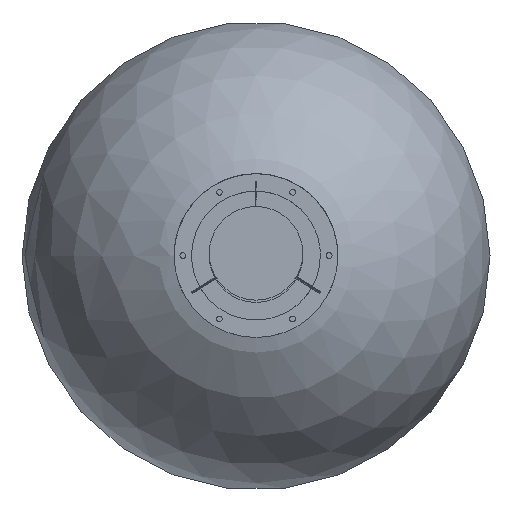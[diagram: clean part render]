
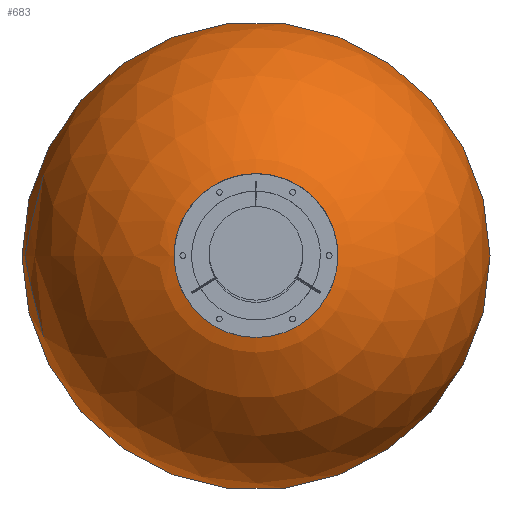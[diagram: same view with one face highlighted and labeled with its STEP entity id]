
A CAD part, top view. The second image highlights one B-rep face of the part: STEP entity #683.
In plain terms, the highlighted spherical face has radius 200 mm.
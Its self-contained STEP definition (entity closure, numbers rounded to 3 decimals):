
#12=SPHERICAL_SURFACE('',#819,200.);
#197=FACE_OUTER_BOUND('',#263,.T.);
#263=EDGE_LOOP('',(#622,#623,#624));
#304=CIRCLE('',#818,40.);
#305=CIRCLE('',#820,200.);
#380=VERTEX_POINT('',#2033);
#381=VERTEX_POINT('',#2037);
#461=EDGE_CURVE('',#380,#380,#304,.T.);
#462=EDGE_CURVE('',#381,#380,#305,.T.);
#622=ORIENTED_EDGE('',*,*,#461,.T.);
#623=ORIENTED_EDGE('',*,*,#462,.F.);
#624=ORIENTED_EDGE('',*,*,#462,.T.);
#683=ADVANCED_FACE('',(#197),#12,.T.);
#818=AXIS2_PLACEMENT_3D('',#2035,#1027,#1028);
#819=AXIS2_PLACEMENT_3D('',#2036,#1029,#1030);
#820=AXIS2_PLACEMENT_3D('',#2038,#1031,#1032);
#1027=DIRECTION('center_axis',(0.,0.,1.));
#1028=DIRECTION('ref_axis',(1.,0.,0.));
#1029=DIRECTION('center_axis',(0.,0.,1.));
#1030=DIRECTION('ref_axis',(1.,0.,0.));
#1031=DIRECTION('center_axis',(0.,-1.,0.));
#1032=DIRECTION('ref_axis',(-1.,0.,0.));
#2033=CARTESIAN_POINT('',(-40.,0.,0.));
#2035=CARTESIAN_POINT('Origin',(0.,0.,0.));
#2036=CARTESIAN_POINT('Origin',(0.,0.,195.959));
#2037=CARTESIAN_POINT('',(0.,0.,395.959));
#2038=CARTESIAN_POINT('Origin',(0.,0.,195.959));
